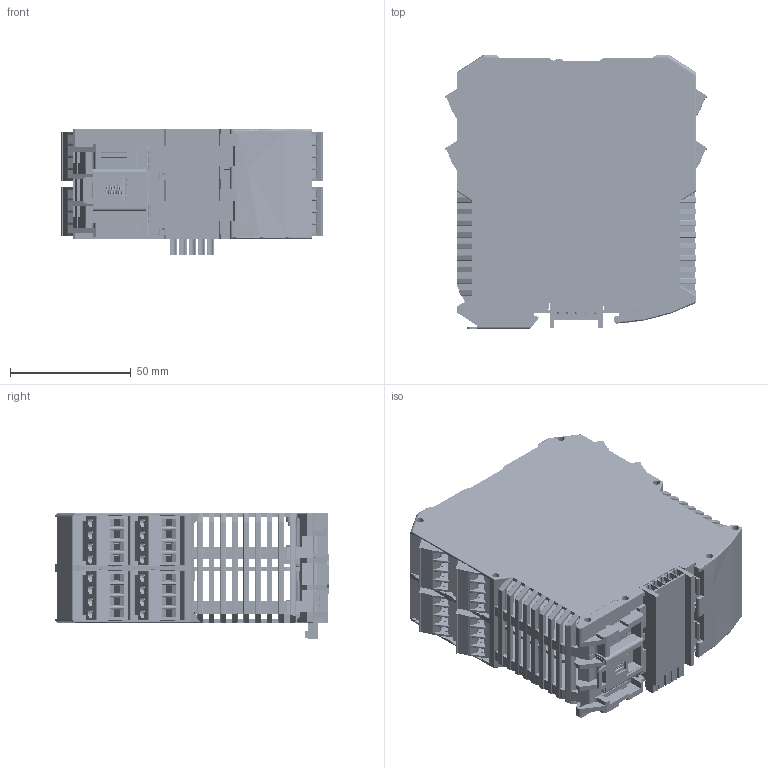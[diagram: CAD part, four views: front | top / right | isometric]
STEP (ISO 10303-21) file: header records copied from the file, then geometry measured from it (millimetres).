
FILE_DESCRIPTION(('STEP AP214'), '1');
FILE_NAME('NLS-8PR-Ethernet', '', ('UNSPECIFIED'), ('UNSPECIFIED'), 'C3D Converter', 'C3D Toolkit', '');
FILE_SCHEMA(('AUTOMOTIVE_DESIGN { 1 0 10303 214 3 1 1}'));
Length unit declared in the file: millimetre
Products named in the file (1): NLS-8PR-Ethernet
Bounding box: 108.45 x 113.65 x 51.8 mm (x, y, z)
Volume: 133383.7 mm3; surface area: 166166.7 mm2
Topology: 7 solids, 39 shells, 10936 faces, 28073 edges, 17376 vertices
Faces by surface type: plane 8840, cylinder 1085, extrusion 941, cone 62, bspline 6, torus 2
Full cylindrical faces by diameter (mm): 1 x72, 1.35 x1, 1.4 x37, 1.6 x53, 1.8 x2, 2 x32, 2.2 x14, 2.8 x33, 3 x16, 3.796 x32, 4 x32, 4.5 x1
Entity records: 446105 total; most frequent: CARTESIAN_POINT 98776, ORIENTED_EDGE 55376, DIRECTION 48565, EDGE_CURVE 27688, VECTOR 24105, LINE 23164, VERTEX_POINT 17376, AXIS2_PLACEMENT_3D 12230
